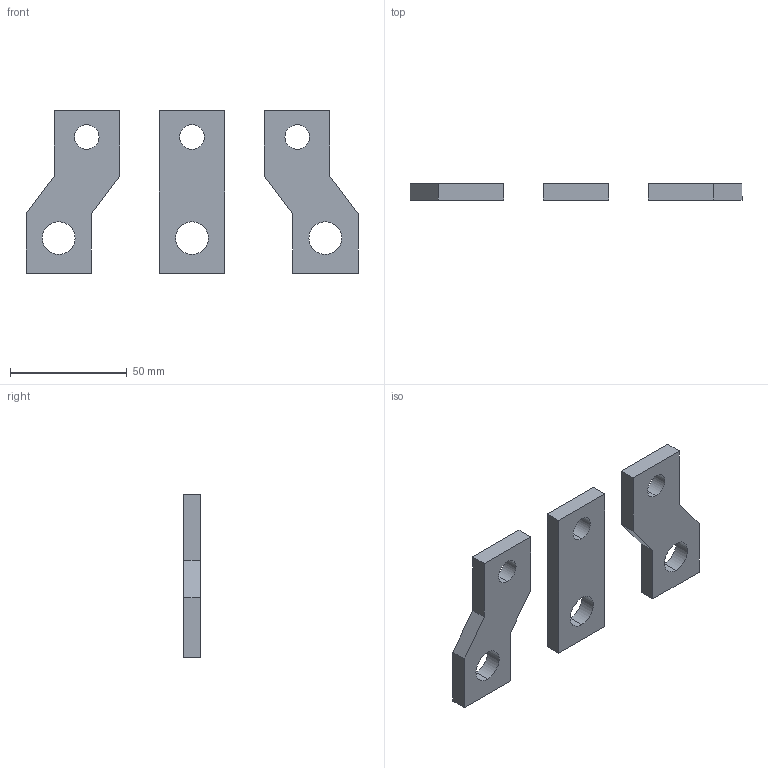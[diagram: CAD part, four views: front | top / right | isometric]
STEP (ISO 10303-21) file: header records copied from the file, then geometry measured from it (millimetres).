
FILE_DESCRIPTION (( 'STEP AP214' ), '1' );
FILE_NAME ('400 3 detali.STEP', '2025-11-26T10:38:28', ( '' ), ( '' ), 'SwSTEP 2.0', 'SolidWorks 2024', '' );
FILE_SCHEMA (( 'AUTOMOTIVE_DESIGN' ));
Length unit declared in the file: millimetre
Products named in the file (3): 400; 400 3 detali; 400 sr
Assembly tree (3 placements, depth 2):
  400 3 detali
    400  x2
    400 sr
Bounding box: 142 x 7 x 69.5 mm (x, y, z)
Volume: 35814.9 mm3; surface area: 16056.2 mm2
Topology: 3 solids, 3 shells, 38 faces, 96 edges, 64 vertices
Faces by surface type: plane 26, cylinder 12
Entity records: 832 total; most frequent: DIRECTION 136, CARTESIAN_POINT 130, ORIENTED_EDGE 120, EDGE_CURVE 60, AXIS2_PLACEMENT_3D 46, VECTOR 44, LINE 44, VERTEX_POINT 40
